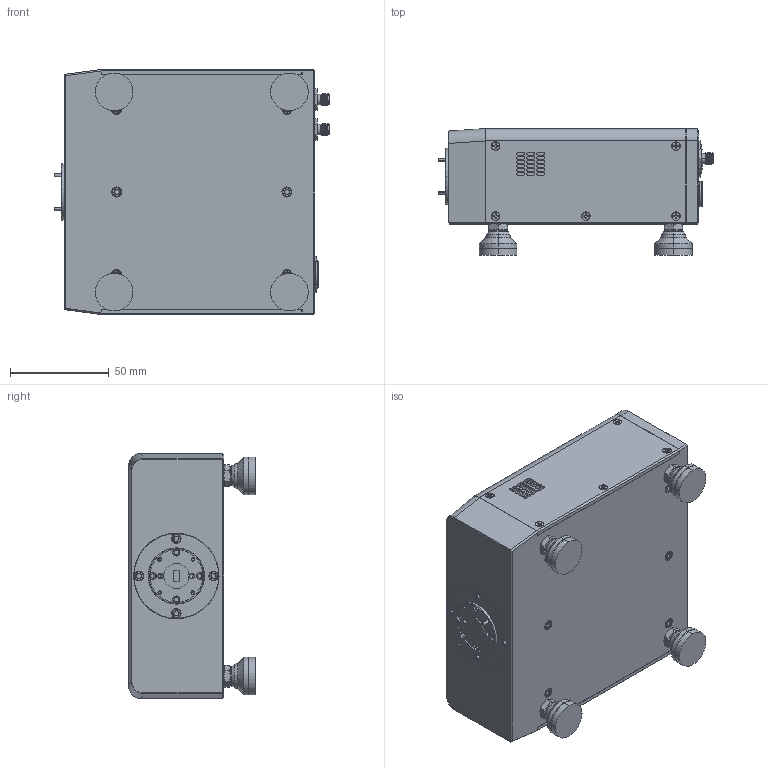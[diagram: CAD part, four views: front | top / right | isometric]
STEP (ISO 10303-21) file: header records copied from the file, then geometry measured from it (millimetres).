
FILE_DESCRIPTION (( 'STEP AP214' ), '1' );
FILE_NAME ('TC-Q-A, Defeatured.STEP', '2024-05-15T21:51:53', ( '' ), ( '' ), 'SwSTEP 2.0', 'SolidWorks 2021', '' );
FILE_SCHEMA (( 'AUTOMOTIVE_DESIGN' ));
Length unit declared in the file: inch
Products named in the file (1): TC-Q-A, Defeatured
Bounding box: 139.51 x 64.14 x 124.32 mm (x, y, z)
Volume: 763708.7 mm3; surface area: 107986.4 mm2
Topology: 3 solids, 5 shells, 1578 faces, 4098 edges, 2603 vertices
Faces by surface type: plane 747, cylinder 449, cone 359, bspline 12, sphere 9, torus 2
Entity records: 74378 total; most frequent: CARTESIAN_POINT 16767, ORIENTED_EDGE 8160, DIRECTION 7693, EDGE_CURVE 4080, AXIS2_PLACEMENT_3D 2785, VERTEX_POINT 2602, VECTOR 2123, LINE 2123
